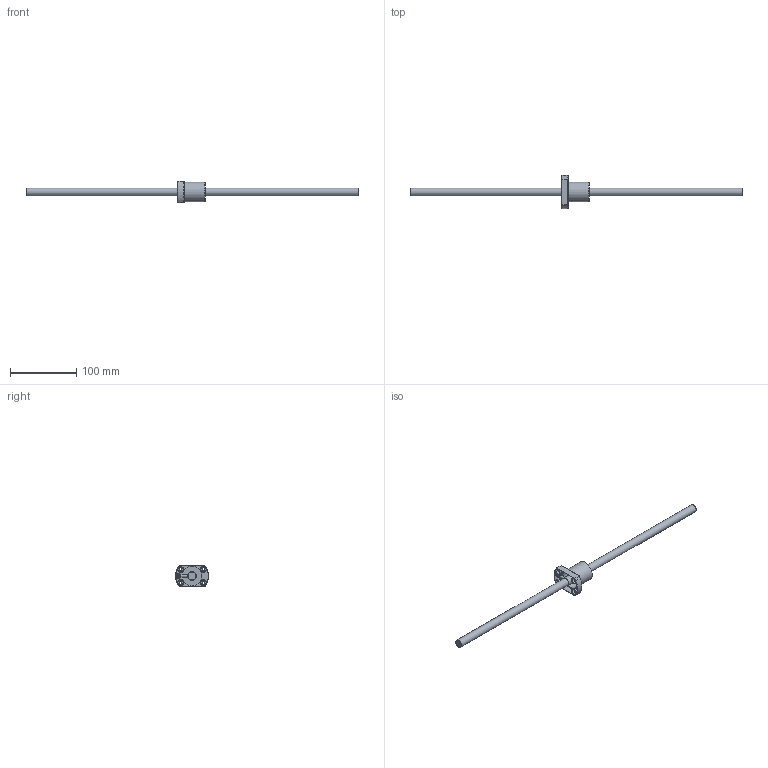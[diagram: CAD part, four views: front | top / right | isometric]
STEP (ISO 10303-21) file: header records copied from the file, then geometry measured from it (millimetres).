
FILE_DESCRIPTION (( 'STEP AP203' ), '1' );
FILE_NAME ('SFV01205D-2.8.step', '2024-05-20T03:36:47', ( '' ), ( '' ), 'SwSTEP 2.0', 'SolidWorks 2022', '' );
FILE_SCHEMA (( 'CONFIG_CONTROL_DESIGN' ));
Length unit declared in the file: millimetre
Products named in the file (1): SFV01205D-2.8
Bounding box: 500 x 50 x 32 mm (x, y, z)
Volume: 86684.6 mm3; surface area: 28770 mm2
Topology: 2 solids, 2 shells, 56 faces, 130 edges, 79 vertices
Faces by surface type: cylinder 21, plane 16, cone 9, bspline 5, torus 5
Full cylindrical faces by diameter (mm): 4 x1, 4.5 x4, 5 x6, 8 x4, 12 x1, 13.1 x1, 30 x1
Entity records: 3095 total; most frequent: CARTESIAN_POINT 2069, DIRECTION 198, ORIENTED_EDGE 158, AXIS2_PLACEMENT_3D 91, EDGE_LOOP 86, EDGE_CURVE 79, FACE_OUTER_BOUND 64, VERTEX_POINT 59
